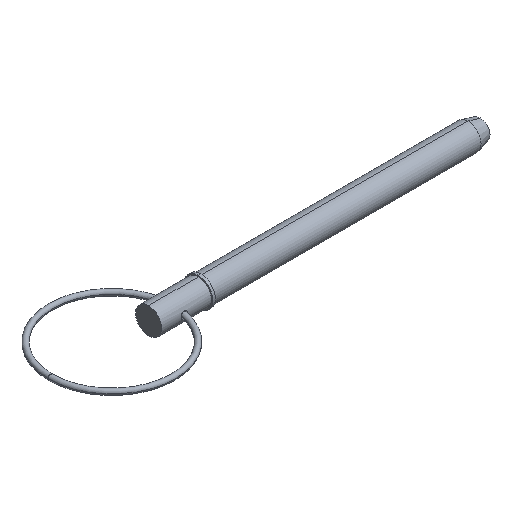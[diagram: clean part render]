
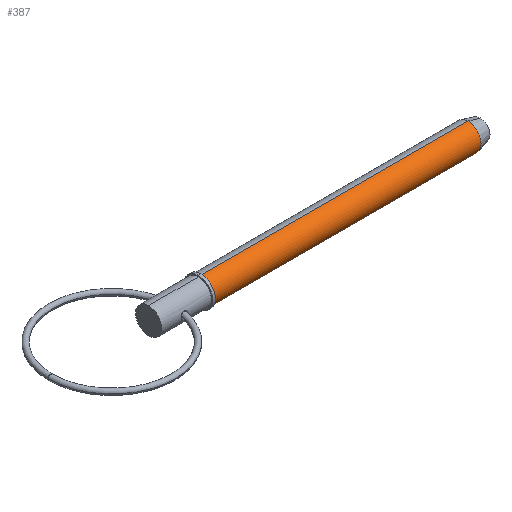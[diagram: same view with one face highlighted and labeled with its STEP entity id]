
A CAD part, isometric view. The second image highlights one B-rep face of the part: STEP entity #387.
In plain terms, the highlighted cylindrical face has radius 4.765 mm (diameter 9.53 mm), a partial arc.
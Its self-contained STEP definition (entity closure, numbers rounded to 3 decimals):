
#35 = CARTESIAN_POINT ( 'NONE',  ( 0., 0., -4.765 ) ) ;
#43 = AXIS2_PLACEMENT_3D ( 'NONE', #213, #747, #196 ) ;
#47 = DIRECTION ( 'NONE',  ( 1., 0., 0. ) ) ;
#80 = ORIENTED_EDGE ( 'NONE', *, *, #614, .T. ) ;
#133 = CARTESIAN_POINT ( 'NONE',  ( 116.204, 0., -4.765 ) ) ;
#149 = VERTEX_POINT ( 'NONE', #700 ) ;
#196 = DIRECTION ( 'NONE',  ( 0., 0., -1. ) ) ;
#213 = CARTESIAN_POINT ( 'NONE',  ( 116.204, 0., 0. ) ) ;
#220 = CIRCLE ( 'NONE', #43, 4.765 ) ;
#230 = VERTEX_POINT ( 'NONE', #853 ) ;
#282 = DIRECTION ( 'NONE',  ( 1., 0., 0. ) ) ;
#316 = ORIENTED_EDGE ( 'NONE', *, *, #836, .T. ) ;
#387 = ADVANCED_FACE ( 'NONE', ( #963 ), #879, .T. ) ;
#395 = CARTESIAN_POINT ( 'NONE',  ( 0., 0., 4.765 ) ) ;
#429 = AXIS2_PLACEMENT_3D ( 'NONE', #733, #47, #815 ) ;
#474 = DIRECTION ( 'NONE',  ( 1., 0., 0. ) ) ;
#528 = ORIENTED_EDGE ( 'NONE', *, *, #683, .F. ) ;
#602 = DIRECTION ( 'NONE',  ( 0., 0., -1. ) ) ;
#614 = EDGE_CURVE ( 'NONE', #230, #826, #714, .T. ) ;
#617 = CIRCLE ( 'NONE', #641, 4.765 ) ;
#631 = ORIENTED_EDGE ( 'NONE', *, *, #819, .F. ) ;
#641 = AXIS2_PLACEMENT_3D ( 'NONE', #671, #282, #602 ) ;
#671 = CARTESIAN_POINT ( 'NONE',  ( 19.05, 0., 0. ) ) ;
#683 = EDGE_CURVE ( 'NONE', #783, #149, #789, .T. ) ;
#700 = CARTESIAN_POINT ( 'NONE',  ( 116.204, 0., 4.765 ) ) ;
#714 = LINE ( 'NONE', #35, #1012 ) ;
#724 = DIRECTION ( 'NONE',  ( 1., 0., 0. ) ) ;
#733 = CARTESIAN_POINT ( 'NONE',  ( 0., 0., 0. ) ) ;
#747 = DIRECTION ( 'NONE',  ( 1., 0., 0. ) ) ;
#766 = EDGE_LOOP ( 'NONE', ( #528, #316, #80, #631 ) ) ;
#783 = VERTEX_POINT ( 'NONE', #992 ) ;
#789 = LINE ( 'NONE', #395, #882 ) ;
#815 = DIRECTION ( 'NONE',  ( 0., 0., -1. ) ) ;
#819 = EDGE_CURVE ( 'NONE', #149, #826, #220, .T. ) ;
#826 = VERTEX_POINT ( 'NONE', #133 ) ;
#836 = EDGE_CURVE ( 'NONE', #783, #230, #617, .T. ) ;
#853 = CARTESIAN_POINT ( 'NONE',  ( 19.05, 0., -4.765 ) ) ;
#879 = CYLINDRICAL_SURFACE ( 'NONE', #429, 4.765 ) ;
#882 = VECTOR ( 'NONE', #474, 1000. ) ;
#963 = FACE_OUTER_BOUND ( 'NONE', #766, .T. ) ;
#992 = CARTESIAN_POINT ( 'NONE',  ( 19.05, 0., 4.765 ) ) ;
#1012 = VECTOR ( 'NONE', #724, 1000. ) ;
